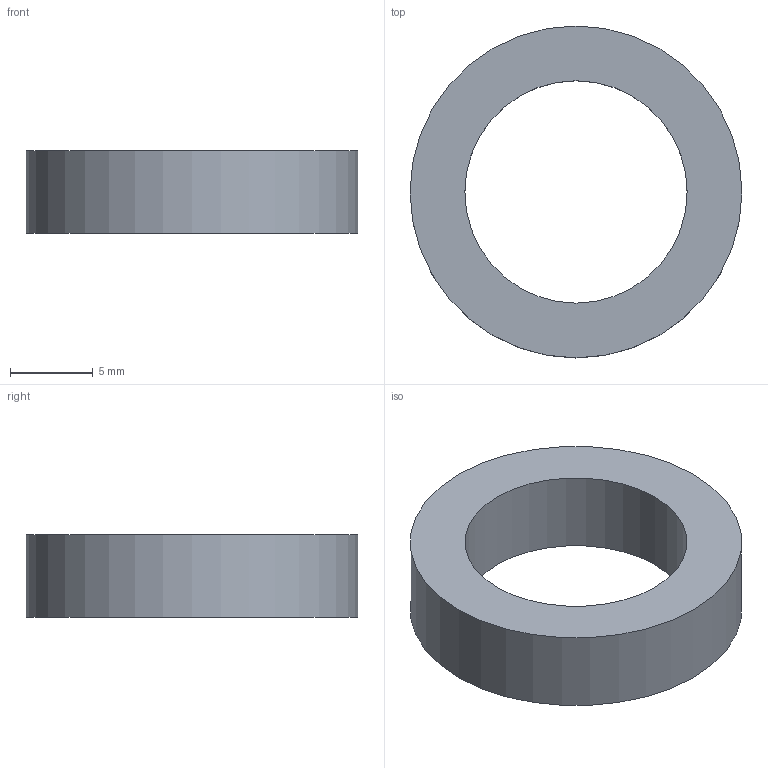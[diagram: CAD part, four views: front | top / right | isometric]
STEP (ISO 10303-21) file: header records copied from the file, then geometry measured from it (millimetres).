
FILE_DESCRIPTION(('FreeCAD Model'),'2;1');
FILE_NAME('Open CASCADE Shape Model','2026-11-20T08:25:39',('FreeCAD'),( 'FreeCAD'),'Open CASCADE STEP processor 7.8','FreeCAD','Unknown');
FILE_SCHEMA(('AUTOMOTIVE_DESIGN { 1 0 10303 214 1 1 1 1 }'));
Length unit declared in the file: millimetre
Products named in the file (1): Open CASCADE STEP translator 7.8 96
Bounding box: 20 x 20 x 5 mm (x, y, z)
Volume: 865.7 mm3; surface area: 870.9 mm2
Topology: 1 solids, 1 shells, 4 faces, 6 edges, 4 vertices
Faces by surface type: cylinder 2, plane 2
Full cylindrical faces by diameter (mm): 13.4 x1, 20 x1
Entity records: 108 total; most frequent: DIRECTION 20, CARTESIAN_POINT 15, ORIENTED_EDGE 12, AXIS2_PLACEMENT_3D 9, FACE_BOUND 6, EDGE_LOOP 6, EDGE_CURVE 6, ADVANCED_FACE 4
